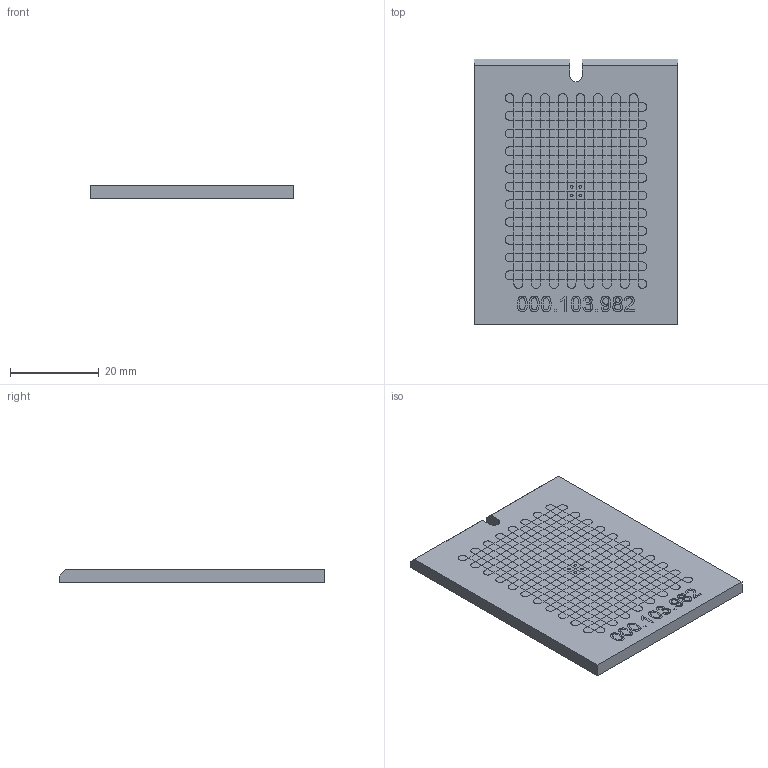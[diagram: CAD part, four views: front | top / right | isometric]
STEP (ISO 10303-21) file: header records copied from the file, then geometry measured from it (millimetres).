
FILE_DESCRIPTION (( 'STEP AP214' ), '1' );
FILE_NAME ('Asyril_EYE+ CALIBRATION PLATE - 50_000.103.982.STEP', '2020-11-05T11:43:56', ( '' ), ( '' ), 'SwSTEP 2.0', 'SolidWorks 2017', '' );
FILE_SCHEMA (( 'AUTOMOTIVE_DESIGN' ));
Length unit declared in the file: millimetre
Products named in the file (1): Asyril_EYE+ CALIBRATION PLATE - 50_000.103.982
Bounding box: 46 x 60 x 3 mm (x, y, z)
Volume: 8191.1 mm3; surface area: 6113.7 mm2
Topology: 1 solids, 1 shells, 350 faces, 855 edges, 530 vertices
Faces by surface type: plane 349, cylinder 1
Entity records: 13076 total; most frequent: CARTESIAN_POINT 3250, ORIENTED_EDGE 1710, DIRECTION 1509, EDGE_CURVE 855, LINE 715, VECTOR 715, VERTEX_POINT 530, AXIS2_PLACEMENT_3D 397
